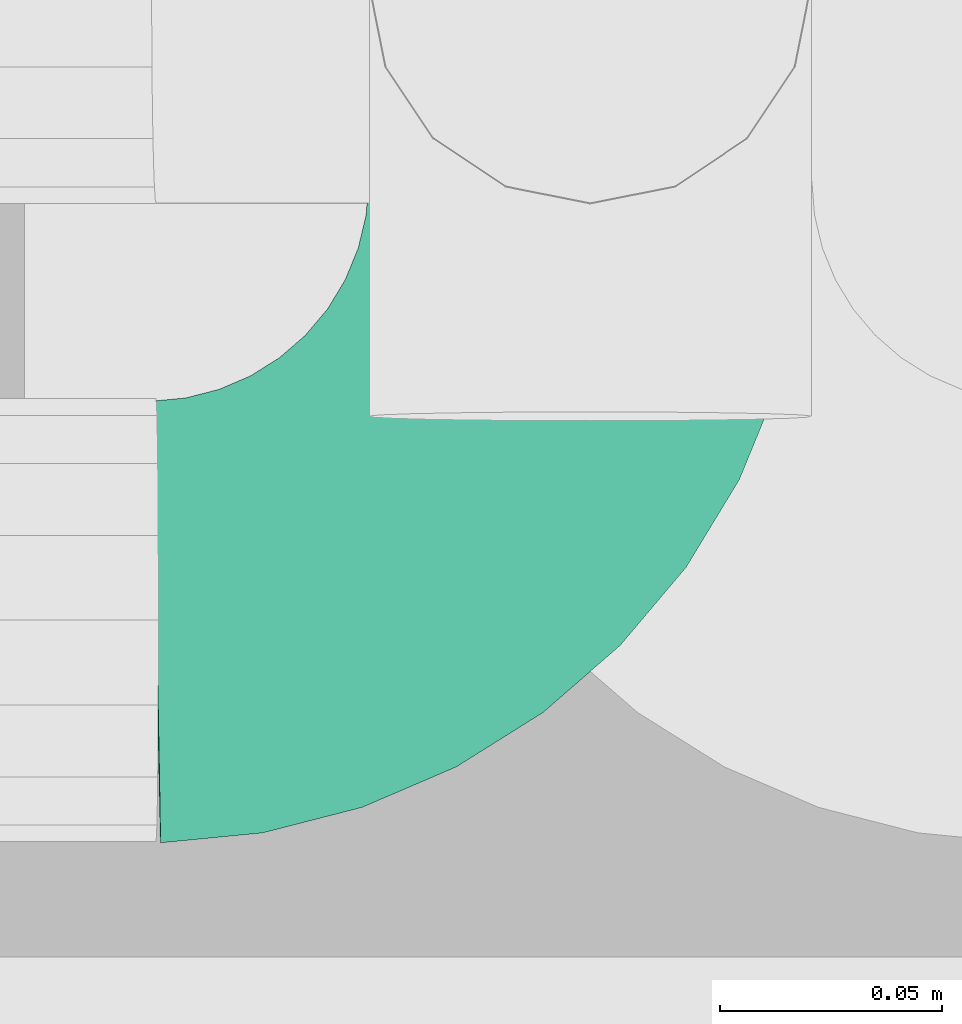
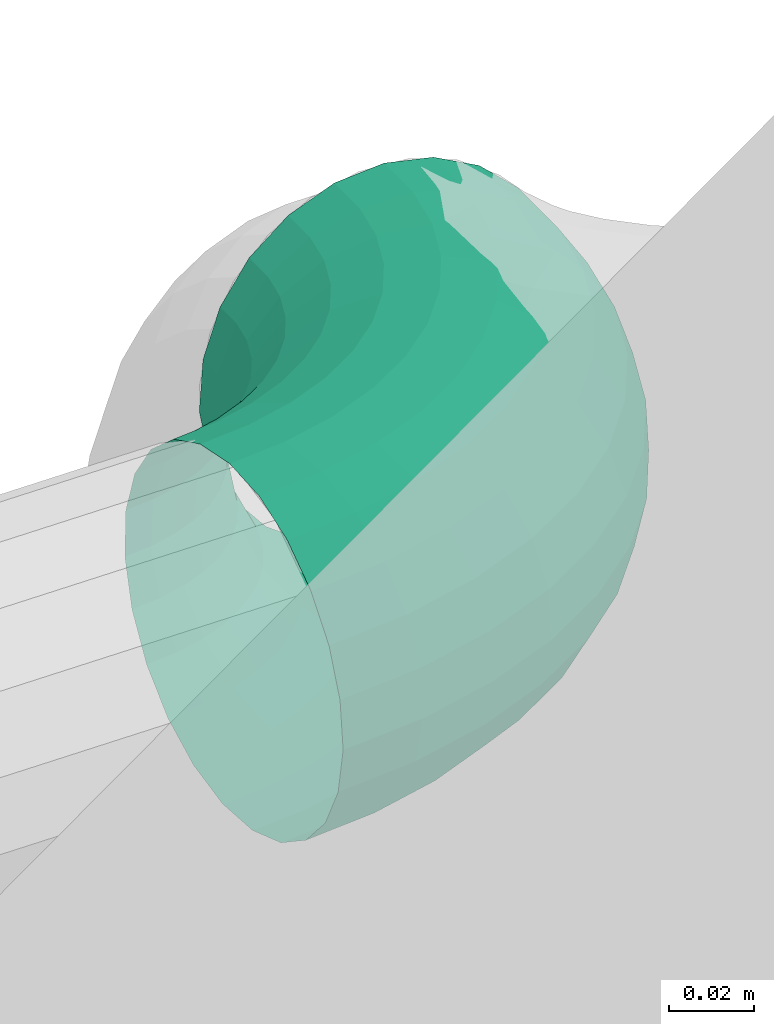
# One storey, part 81 of 106: 1 flow fitting.
"""IFC2X3 building model written with IfcOpenShell, lengths in metres."""

from ifc_helpers import new_model, entity, si_unit, converted_unit, derived_unit, money_unit, direction, frame, origin_with_axes, place, context, subcontext, project, spatial, open_shell, surface_model, material, type_object, element, save


model = new_model("IFC2X3")

# Units and contexts
model_context = context("Model", 3, precision=1e-05, world=origin_with_axes(), true_north=direction((0.0, 1.0)))
body_context = subcontext(model_context, "Body", "Model", "MODEL_VIEW", scale=1.0)
ifc_project = project(units=[si_unit("LENGTHUNIT", "METRE"), si_unit("AREAUNIT", "SQUARE_METRE"), si_unit("VOLUMEUNIT", "CUBIC_METRE"), si_unit("ABSORBEDDOSEUNIT", "GRAY"), si_unit("AMOUNTOFSUBSTANCEUNIT", "MOLE"), si_unit("DOSEEQUIVALENTUNIT", "SIEVERT"), si_unit("ELECTRICCAPACITANCEUNIT", "FARAD"), si_unit("ELECTRICCHARGEUNIT", "COULOMB"), si_unit("ELECTRICCONDUCTANCEUNIT", "SIEMENS"), si_unit("ELECTRICCURRENTUNIT", "AMPERE"), si_unit("ELECTRICRESISTANCEUNIT", "OHM"), si_unit("ELECTRICVOLTAGEUNIT", "VOLT"), si_unit("ENERGYUNIT", "JOULE"), si_unit("FORCEUNIT", "NEWTON"), si_unit("FREQUENCYUNIT", "HERTZ"), si_unit("ILLUMINANCEUNIT", "LUX"), si_unit("INDUCTANCEUNIT", "HENRY"), si_unit("LUMINOUSFLUXUNIT", "LUMEN"), si_unit("LUMINOUSINTENSITYUNIT", "CANDELA"), si_unit("MAGNETICFLUXDENSITYUNIT", "TESLA"), si_unit("MAGNETICFLUXUNIT", "WEBER"), si_unit("MASSUNIT", "GRAM"), converted_unit("PLANEANGLEUNIT", "degree", entity("IfcReal", 0.0174532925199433), si_unit("PLANEANGLEUNIT", "RADIAN"), dimensions=[0, 0, 0, 0, 0, 0, 0]), si_unit("POWERUNIT", "WATT"), si_unit("PRESSUREUNIT", "PASCAL"), si_unit("RADIOACTIVITYUNIT", "BECQUEREL"), si_unit("SOLIDANGLEUNIT", "STERADIAN"), si_unit("THERMODYNAMICTEMPERATUREUNIT", "KELVIN"), si_unit("TIMEUNIT", "SECOND"), derived_unit("ACCELERATIONUNIT", [(si_unit("LENGTHUNIT", "METRE"), 1), (si_unit("TIMEUNIT", "SECOND"), -2)]), derived_unit("ANGULARVELOCITYUNIT", [(converted_unit("PLANEANGLEUNIT", "degree", entity("IfcReal", 0.0174532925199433), si_unit("PLANEANGLEUNIT", "RADIAN"), dimensions=[0, 0, 0, 0, 0, 0, 0]), 1), (si_unit("TIMEUNIT", "SECOND"), -1)]), derived_unit("CURVATUREUNIT", [(converted_unit("PLANEANGLEUNIT", "degree", entity("IfcReal", 0.0174532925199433), si_unit("PLANEANGLEUNIT", "RADIAN"), dimensions=[0, 0, 0, 0, 0, 0, 0]), 1), (si_unit("LENGTHUNIT", "METRE"), -1)]), derived_unit("DYNAMICVISCOSITYUNIT", [(si_unit("PRESSUREUNIT", "PASCAL"), 1), (si_unit("TIMEUNIT", "SECOND"), 1)]), derived_unit("HEATFLUXDENSITYUNIT", [(si_unit("POWERUNIT", "WATT"), 1), (si_unit("LENGTHUNIT", "METRE"), -2)]), derived_unit("HEATINGVALUEUNIT", [(si_unit("ENERGYUNIT", "JOULE"), 1), (si_unit("MASSUNIT", "GRAM"), -1)]), derived_unit("INTEGERCOUNTRATEUNIT", [(si_unit("TIMEUNIT", "SECOND"), -1)]), derived_unit("IONCONCENTRATIONUNIT", [(si_unit("MASSUNIT", "GRAM"), 1), (si_unit("VOLUMEUNIT", "CUBIC_METRE"), -1)]), derived_unit("ISOTHERMALMOISTURECAPACITYUNIT", [(si_unit("VOLUMEUNIT", "CUBIC_METRE"), 1), (si_unit("MASSUNIT", "GRAM"), -1)]), derived_unit("KINEMATICVISCOSITYUNIT", [(si_unit("AREAUNIT", "SQUARE_METRE"), 1), (si_unit("TIMEUNIT", "SECOND"), -1)]), derived_unit("LINEARFORCEUNIT", [(si_unit("FORCEUNIT", "NEWTON"), 1), (si_unit("LENGTHUNIT", "METRE"), -1)]), derived_unit("LINEARMOMENTUNIT", [(si_unit("FORCEUNIT", "NEWTON"), 1), (si_unit("LENGTHUNIT", "METRE"), -1)]), derived_unit("LINEARSTIFFNESSUNIT", [(si_unit("FORCEUNIT", "NEWTON"), 1), (si_unit("LENGTHUNIT", "METRE"), -1)]), derived_unit("LINEARVELOCITYUNIT", [(si_unit("LENGTHUNIT", "METRE"), 1), (si_unit("TIMEUNIT", "SECOND"), -1)]), derived_unit("LUMINOUSINTENSITYDISTRIBUTIONUNIT", [(si_unit("LUMINOUSINTENSITYUNIT", "CANDELA"), 1), (si_unit("LUMINOUSFLUXUNIT", "LUMEN"), -1)]), derived_unit("MASSDENSITYUNIT", [(si_unit("MASSUNIT", "GRAM"), 1), (si_unit("VOLUMEUNIT", "CUBIC_METRE"), -1)]), derived_unit("MASSFLOWRATEUNIT", [(si_unit("MASSUNIT", "GRAM"), 1), (si_unit("TIMEUNIT", "SECOND"), -1)]), derived_unit("MASSPERLENGTHUNIT", [(si_unit("MASSUNIT", "GRAM"), 1), (si_unit("LENGTHUNIT", "METRE"), -1)]), derived_unit("MODULUSOFELASTICITYUNIT", [(si_unit("FORCEUNIT", "NEWTON"), 1), (si_unit("AREAUNIT", "SQUARE_METRE"), -1)]), derived_unit("MODULUSOFLINEARSUBGRADEREACTIONUNIT", [(si_unit("FORCEUNIT", "NEWTON"), 1), (si_unit("LENGTHUNIT", "METRE"), -2)]), derived_unit("MODULUSOFROTATIONALSUBGRADEREACTIONUNIT", [(si_unit("FORCEUNIT", "NEWTON"), 1), (si_unit("LENGTHUNIT", "METRE"), 1)]), derived_unit("MODULUSOFSUBGRADEREACTIONUNIT", [(si_unit("FORCEUNIT", "NEWTON"), 1), (si_unit("VOLUMEUNIT", "CUBIC_METRE"), -1)]), derived_unit("MOISTUREDIFFUSIVITYUNIT", [(si_unit("VOLUMEUNIT", "CUBIC_METRE"), 1), (si_unit("TIMEUNIT", "SECOND"), -1)]), derived_unit("MOLECULARWEIGHTUNIT", [(si_unit("MASSUNIT", "GRAM"), 1), (si_unit("AMOUNTOFSUBSTANCEUNIT", "MOLE"), -1)]), derived_unit("PLANARFORCEUNIT", [(si_unit("FORCEUNIT", "NEWTON"), 1), (si_unit("LENGTHUNIT", "METRE"), -2)]), derived_unit("ROTATIONALFREQUENCYUNIT", [(si_unit("TIMEUNIT", "SECOND"), -1)]), derived_unit("ROTATIONALMASSUNIT", [(si_unit("MASSUNIT", "GRAM"), 1), (si_unit("LENGTHUNIT", "METRE"), 2)]), derived_unit("ROTATIONALSTIFFNESSUNIT", [(si_unit("FORCEUNIT", "NEWTON"), 1), (si_unit("LENGTHUNIT", "METRE"), 1), (converted_unit("PLANEANGLEUNIT", "degree", entity("IfcReal", 0.0174532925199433), si_unit("PLANEANGLEUNIT", "RADIAN"), dimensions=[0, 0, 0, 0, 0, 0, 0]), -1)]), derived_unit("SECTIONAREAINTEGRALUNIT", [(si_unit("LENGTHUNIT", "METRE"), 5)]), derived_unit("SECTIONMODULUSUNIT", [(si_unit("LENGTHUNIT", "METRE"), 3)]), derived_unit("SHEARMODULUSUNIT", [(si_unit("FORCEUNIT", "NEWTON"), 1), (si_unit("AREAUNIT", "SQUARE_METRE"), -1)]), derived_unit("SOUNDPOWERUNIT", [(si_unit("ENERGYUNIT", "JOULE"), 1), (si_unit("TIMEUNIT", "SECOND"), -1)]), derived_unit("SPECIFICHEATCAPACITYUNIT", [(si_unit("FORCEUNIT", "NEWTON"), 1), (si_unit("MASSUNIT", "GRAM"), -1), (si_unit("THERMODYNAMICTEMPERATUREUNIT", "KELVIN"), -1)]), derived_unit("TEMPERATUREGRADIENTUNIT", [(si_unit("THERMODYNAMICTEMPERATUREUNIT", "KELVIN"), 1), (si_unit("LENGTHUNIT", "METRE"), -1)]), derived_unit("THERMALADMITTANCEUNIT", [(si_unit("POWERUNIT", "WATT"), 1), (si_unit("AREAUNIT", "SQUARE_METRE"), -1), (si_unit("THERMODYNAMICTEMPERATUREUNIT", "KELVIN"), -1)]), derived_unit("THERMALCONDUCTANCEUNIT", [(si_unit("POWERUNIT", "WATT"), 1), (si_unit("LENGTHUNIT", "METRE"), -1), (si_unit("THERMODYNAMICTEMPERATUREUNIT", "KELVIN"), -1)]), derived_unit("THERMALEXPANSIONCOEFFICIENTUNIT", [(si_unit("THERMODYNAMICTEMPERATUREUNIT", "KELVIN"), -1)]), derived_unit("THERMALRESISTANCEUNIT", [(si_unit("AREAUNIT", "SQUARE_METRE"), 1), (si_unit("POWERUNIT", "WATT"), -1)]), derived_unit("THERMALTRANSMITTANCEUNIT", [(si_unit("POWERUNIT", "WATT"), 1), (si_unit("AREAUNIT", "SQUARE_METRE"), -1), (si_unit("THERMODYNAMICTEMPERATUREUNIT", "KELVIN"), -1)]), derived_unit("TORQUEUNIT", [(si_unit("FORCEUNIT", "NEWTON"), 1), (si_unit("LENGTHUNIT", "METRE"), 1)]), derived_unit("VAPORPERMEABILITYUNIT", [(si_unit("MASSUNIT", "GRAM"), 1), (si_unit("TIMEUNIT", "SECOND"), -1)]), derived_unit("VOLUMETRICFLOWRATEUNIT", [(si_unit("VOLUMEUNIT", "CUBIC_METRE"), 1), (si_unit("TIMEUNIT", "SECOND"), -1)]), derived_unit("WARPINGCONSTANTUNIT", [(si_unit("LENGTHUNIT", "METRE"), 6)]), derived_unit("WARPINGMOMENTUNIT", [(si_unit("FORCEUNIT", "NEWTON"), 1), (si_unit("LENGTHUNIT", "METRE"), 2)]), money_unit("GBP")], contexts=[model_context])

# Site, building, storey
site_placement = place(None, origin_with_axes())
site = spatial("IfcSite", under=ifc_project, at=site_placement, Name="Site", CompositionType="ELEMENT")
building_placement = place(site_placement, origin_with_axes())
building = spatial("IfcBuilding", under=site, at=building_placement, Name="Building01", CompositionType="ELEMENT")
storey_placement = place(building_placement, origin_with_axes())
storey = spatial("IfcBuildingStorey", under=building, at=storey_placement, Name="GF", CompositionType="ELEMENT", Elevation=0.0)

# Flow fitting
ifc_material = material(Name="M_BSUK_ColdWater")
pipe_fitting_type = type_object("IfcPipeFittingType", Name="M-BmpElbow-DefaultElbow", PredefinedType="BEND")
flow_fitting_placement = place(storey_placement, frame((0.408496, 14.905103, 15.475211), z_axis=(1.0, 0.0, 0.0), x_axis=(0.0, -0.99414865, 0.10802068)))
element("IfcFlowFitting", 1, at=flow_fitting_placement, inside=storey, type_object=pipe_fitting_type, material=ifc_material, Name="M-BmpElbow-DefaultElbow", ObjectType="M-BmpElbow-DefaultElbow", context=body_context, shape_type="SurfaceModel", body=[
    surface_model("IfcShellBasedSurfaceModel", [(0.008009, -0.01349, -0.048768), (0.0, -0.01349, -0.048146), (0.0, 0.0, -0.05), (0.007723, 0.0, -0.0506), (0.015826, -0.01349, -0.05062), (0.015261, 0.0, -0.052386), (0.023264, -0.01349, -0.053657), (0.022432, 0.0, -0.055314), (0.030143, -0.01349, -0.057807), (0.029065, 0.0, -0.059315), (0.036298, -0.01349, -0.062969), (0.035, 0.0, -0.064293), (0.041582, -0.01349, -0.06902), (0.040095, 0.0, -0.070127), (0.045868, -0.01349, -0.075814), (0.044228, 0.0, -0.076679), (0.049054, -0.01349, -0.083189), (0.0473, 0.0, -0.08379), (0.051061, -0.01349, -0.090968), (0.049236, 0.0, -0.091291), (0.051844, -0.01349, -0.098963), (0.04999, 0.0, -0.099), (0.008847, -0.025979, -0.043408), (0.0, -0.025979, -0.042721), (0.017482, -0.025979, -0.045454), (0.025697, -0.025979, -0.048809), (0.033296, -0.025979, -0.053392), (0.040095, -0.025979, -0.059095), (0.045932, -0.025979, -0.065779), (0.050667, -0.025979, -0.073284), (0.054185, -0.025979, -0.081431), (0.056403, -0.025979, -0.090023), (0.057268, -0.025979, -0.098855), (0.010175, -0.036542, -0.034918), (0.0, -0.036542, -0.034128), (0.020105, -0.036542, -0.037271), (0.029553, -0.036542, -0.041129), (0.038291, -0.036542, -0.0464), (0.046111, -0.036542, -0.052958), (0.052823, -0.036542, -0.060645), (0.058268, -0.036542, -0.069276), (0.062315, -0.036542, -0.078645), (0.064865, -0.036542, -0.088526), (0.065859, -0.036542, -0.098683), (0.011893, -0.044394, -0.023927), (0.0, -0.044394, -0.023003), (0.0235, -0.044394, -0.026677), (0.034544, -0.044394, -0.031187), (0.044758, -0.044394, -0.037348), (0.053898, -0.044394, -0.045013), (0.061744, -0.044394, -0.053998), (0.068109, -0.044394, -0.064087), (0.072838, -0.044394, -0.075038), (0.07582, -0.044394, -0.086588), (0.076981, -0.044394, -0.09846), (0.013875, -0.048954, -0.011251), (0.0, -0.048954, -0.010173), (0.027416, -0.048954, -0.014459), (0.0403, -0.048954, -0.01972), (0.052216, -0.048954, -0.026908), (0.062879, -0.048954, -0.035851), (0.072033, -0.048954, -0.046333), (0.079458, -0.048954, -0.058103), (0.084976, -0.048954, -0.070879), (0.088454, -0.048954, -0.084353), (0.089809, -0.048954, -0.098204), (0.015973, -0.049883, 0.002171), (0.0, -0.049883, 0.003412), (0.031562, -0.049883, -0.001522), (0.046394, -0.049883, -0.007579), (0.060113, -0.049883, -0.015854), (0.072389, -0.049883, -0.026149), (0.082927, -0.049883, -0.038216), (0.091475, -0.049883, -0.051767), (0.097827, -0.049883, -0.066475), (0.101831, -0.049883, -0.081987), (0.103391, -0.049883, -0.097932), (0.018032, -0.047113, 0.015343), (0.0, -0.047113, 0.016744), (0.035632, -0.047113, 0.011174), (0.052376, -0.047113, 0.004336), (0.067863, -0.047113, -0.005006), (0.081721, -0.047113, -0.016628), (0.093618, -0.047113, -0.030251), (0.103268, -0.047113, -0.045548), (0.110439, -0.047113, -0.062153), (0.114959, -0.047113, -0.079665), (0.116721, -0.047113, -0.097665), (0.0199, -0.040848, 0.027288), (0.0, -0.040848, 0.028834), (0.039322, -0.040848, 0.022687), (0.0578, -0.040848, 0.015141), (0.074891, -0.040848, 0.004831), (0.090184, -0.040848, -0.007994), (0.103313, -0.040848, -0.023028), (0.113962, -0.040848, -0.039909), (0.121876, -0.040848, -0.058233), (0.126865, -0.040848, -0.077559), (0.128808, -0.040848, -0.097424), (0.021437, -0.031554, 0.03712), (0.0, -0.031554, 0.038786), (0.042359, -0.031554, 0.032163), (0.062264, -0.031554, 0.024035), (0.080675, -0.031554, 0.012929), (0.09715, -0.031554, -0.000887), (0.111293, -0.031554, -0.017083), (0.122765, -0.031554, -0.035268), (0.13129, -0.031554, -0.055007), (0.136664, -0.031554, -0.075826), (0.138758, -0.031554, -0.097225), (0.022529, -0.01992, 0.04411), (0.0, -0.01992, 0.045861), (0.044518, -0.01992, 0.038901), (0.065438, -0.01992, 0.030358), (0.084788, -0.01992, 0.018686), (0.102103, -0.01992, 0.004165), (0.116966, -0.01992, -0.012856), (0.129023, -0.01992, -0.031968), (0.137983, -0.01992, -0.052713), (0.143631, -0.01992, -0.074593), (0.145831, -0.01992, -0.097083), (0.023097, -0.006808, 0.04774), (0.0, -0.006808, 0.049534), (0.045639, -0.006808, 0.042399), (0.067087, -0.006808, 0.033641), (0.086924, -0.006808, 0.021675), (0.104674, -0.006808, 0.006789), (0.119912, -0.006808, -0.010661), (0.132273, -0.006808, -0.030254), (0.141458, -0.006808, -0.051522), (0.147248, -0.006808, -0.073953), (0.149504, -0.006808, -0.09701), (0.023097, 0.006808, 0.04774), (0.0, 0.006808, 0.049534), (0.045639, 0.006808, 0.042399), (0.067087, 0.006808, 0.033641), (0.086924, 0.006808, 0.021675), (0.104674, 0.006808, 0.006789), (0.119912, 0.006808, -0.010661), (0.132273, 0.006808, -0.030254), (0.141458, 0.006808, -0.051522), (0.147248, 0.006808, -0.073953), (0.149504, 0.006808, -0.09701), (0.022529, 0.01992, 0.04411), (0.0, 0.01992, 0.045861), (0.044518, 0.01992, 0.038901), (0.065438, 0.01992, 0.030358), (0.084788, 0.01992, 0.018686), (0.102103, 0.01992, 0.004165), (0.116966, 0.01992, -0.012856), (0.129023, 0.01992, -0.031968), (0.137983, 0.01992, -0.052713), (0.143631, 0.01992, -0.074593), (0.145831, 0.01992, -0.097083), (0.021437, 0.031554, 0.03712), (0.0, 0.031554, 0.038786), (0.042359, 0.031554, 0.032163), (0.062264, 0.031554, 0.024035), (0.080675, 0.031554, 0.012929), (0.09715, 0.031554, -0.000887), (0.111293, 0.031554, -0.017083), (0.122765, 0.031554, -0.035268), (0.13129, 0.031554, -0.055007), (0.136664, 0.031554, -0.075826), (0.138758, 0.031554, -0.097225), (0.0199, 0.040848, 0.027288), (0.0, 0.040848, 0.028834), (0.039322, 0.040848, 0.022687), (0.0578, 0.040848, 0.015141), (0.074891, 0.040848, 0.004831), (0.090184, 0.040848, -0.007994), (0.103313, 0.040848, -0.023028), (0.113962, 0.040848, -0.039909), (0.121876, 0.040848, -0.058233), (0.126865, 0.040848, -0.077559), (0.128808, 0.040848, -0.097424), (0.018032, 0.047113, 0.015343), (0.0, 0.047113, 0.016744), (0.035632, 0.047113, 0.011174), (0.052376, 0.047113, 0.004336), (0.067863, 0.047113, -0.005006), (0.081721, 0.047113, -0.016628), (0.093618, 0.047113, -0.030251), (0.103268, 0.047113, -0.045548), (0.110439, 0.047113, -0.062153), (0.114959, 0.047113, -0.079665), (0.116721, 0.047113, -0.097665), (0.015973, 0.049883, 0.002171), (0.0, 0.049883, 0.003412), (0.031562, 0.049883, -0.001522), (0.046394, 0.049883, -0.007579), (0.060113, 0.049883, -0.015854), (0.072389, 0.049883, -0.026149), (0.082927, 0.049883, -0.038216), (0.091475, 0.049883, -0.051767), (0.097827, 0.049883, -0.066475), (0.101831, 0.049883, -0.081987), (0.103391, 0.049883, -0.097932), (0.013875, 0.048954, -0.011251), (0.0, 0.048954, -0.010173), (0.027416, 0.048954, -0.014459), (0.0403, 0.048954, -0.01972), (0.052216, 0.048954, -0.026908), (0.062879, 0.048954, -0.035851), (0.072033, 0.048954, -0.046333), (0.079458, 0.048954, -0.058103), (0.084976, 0.048954, -0.070879), (0.088454, 0.048954, -0.084353), (0.089809, 0.048954, -0.098204), (0.011893, 0.044394, -0.023927), (0.0, 0.044394, -0.023003), (0.0235, 0.044394, -0.026677), (0.034544, 0.044394, -0.031187), (0.044758, 0.044394, -0.037348), (0.053898, 0.044394, -0.045013), (0.061744, 0.044394, -0.053998), (0.068109, 0.044394, -0.064087), (0.072838, 0.044394, -0.075038), (0.07582, 0.044394, -0.086588), (0.076981, 0.044394, -0.09846), (0.010175, 0.036542, -0.034918), (0.0, 0.036542, -0.034128), (0.020105, 0.036542, -0.037271), (0.029553, 0.036542, -0.041129), (0.038291, 0.036542, -0.0464), (0.046111, 0.036542, -0.052958), (0.052823, 0.036542, -0.060645), (0.058268, 0.036542, -0.069276), (0.062315, 0.036542, -0.078645), (0.064865, 0.036542, -0.088526), (0.065859, 0.036542, -0.098683), (0.008847, 0.025979, -0.043408), (0.0, 0.025979, -0.042721), (0.017482, 0.025979, -0.045454), (0.025697, 0.025979, -0.048809), (0.033296, 0.025979, -0.053392), (0.040095, 0.025979, -0.059095), (0.045932, 0.025979, -0.065779), (0.050667, 0.025979, -0.073284), (0.054185, 0.025979, -0.081431), (0.056403, 0.025979, -0.090023), (0.057268, 0.025979, -0.098855), (0.008009, 0.01349, -0.048768), (0.0, 0.01349, -0.048146), (0.015826, 0.01349, -0.05062), (0.023264, 0.01349, -0.053657), (0.030143, 0.01349, -0.057807), (0.036298, 0.01349, -0.062969), (0.041582, 0.01349, -0.06902), (0.045868, 0.01349, -0.075814), (0.049054, 0.01349, -0.083189), (0.051061, 0.01349, -0.090968), (0.051844, 0.01349, -0.098963)], [open_shell([[[0, 1, 2, 3]], [[4, 0, 3, 5]], [[6, 4, 5, 7]], [[8, 6, 7, 9]], [[10, 8, 9, 11]], [[12, 10, 11, 13]], [[14, 12, 13, 15]], [[16, 14, 15, 17]], [[18, 16, 17, 19]], [[20, 18, 19, 21]], [[22, 23, 1, 0]], [[24, 22, 0, 4]], [[25, 24, 4, 6]], [[26, 25, 6, 8]], [[27, 26, 8, 10]], [[28, 27, 10, 12]], [[29, 28, 12, 14]], [[30, 29, 14, 16]], [[31, 30, 16, 18]], [[32, 31, 18, 20]], [[33, 34, 23, 22]], [[35, 33, 22, 24]], [[36, 35, 24, 25]], [[37, 36, 25, 26]], [[38, 37, 26, 27]], [[39, 38, 27, 28]], [[40, 39, 28, 29]], [[41, 40, 29, 30]], [[42, 41, 30, 31]], [[43, 42, 31, 32]], [[44, 45, 34, 33]], [[46, 44, 33, 35]], [[47, 46, 35, 36]], [[48, 47, 36, 37]], [[49, 48, 37, 38]], [[50, 49, 38, 39]], [[51, 50, 39, 40]], [[52, 51, 40, 41]], [[53, 52, 41, 42]], [[54, 53, 42, 43]], [[55, 56, 45, 44]], [[57, 55, 44, 46]], [[58, 57, 46, 47]], [[59, 58, 47, 48]], [[60, 59, 48, 49]], [[61, 60, 49, 50]], [[62, 61, 50, 51]], [[63, 62, 51, 52]], [[64, 63, 52, 53]], [[65, 64, 53, 54]], [[66, 67, 56, 55]], [[68, 66, 55, 57]], [[69, 68, 57, 58]], [[70, 69, 58, 59]], [[71, 70, 59, 60]], [[72, 71, 60, 61]], [[73, 72, 61, 62]], [[74, 73, 62, 63]], [[75, 74, 63, 64]], [[76, 75, 64, 65]], [[77, 78, 67, 66]], [[79, 77, 66, 68]], [[80, 79, 68, 69]], [[81, 80, 69, 70]], [[82, 81, 70, 71]], [[83, 82, 71, 72]], [[84, 83, 72, 73]], [[85, 84, 73, 74]], [[86, 85, 74, 75]], [[87, 86, 75, 76]], [[88, 89, 78, 77]], [[90, 88, 77, 79]], [[91, 90, 79, 80]], [[92, 91, 80, 81]], [[93, 92, 81, 82]], [[94, 93, 82, 83]], [[95, 94, 83, 84]], [[96, 95, 84, 85]], [[97, 96, 85, 86]], [[98, 97, 86, 87]], [[99, 100, 89, 88]], [[101, 99, 88, 90]], [[102, 101, 90, 91]], [[103, 102, 91, 92]], [[104, 103, 92, 93]], [[105, 104, 93, 94]], [[106, 105, 94, 95]], [[107, 106, 95, 96]], [[108, 107, 96, 97]], [[109, 108, 97, 98]], [[110, 111, 100, 99]], [[112, 110, 99, 101]], [[113, 112, 101, 102]], [[114, 113, 102, 103]], [[115, 114, 103, 104]], [[116, 115, 104, 105]], [[117, 116, 105, 106]], [[118, 117, 106, 107]], [[119, 118, 107, 108]], [[120, 119, 108, 109]], [[121, 122, 111, 110]], [[123, 121, 110, 112]], [[124, 123, 112, 113]], [[125, 124, 113, 114]], [[126, 125, 114, 115]], [[127, 126, 115, 116]], [[128, 127, 116, 117]], [[129, 128, 117, 118]], [[130, 129, 118, 119]], [[131, 130, 119, 120]], [[132, 133, 122, 121]], [[134, 132, 121, 123]], [[135, 134, 123, 124]], [[136, 135, 124, 125]], [[137, 136, 125, 126]], [[138, 137, 126, 127]], [[139, 138, 127, 128]], [[140, 139, 128, 129]], [[141, 140, 129, 130]], [[142, 141, 130, 131]], [[143, 144, 133, 132]], [[145, 143, 132, 134]], [[146, 145, 134, 135]], [[147, 146, 135, 136]], [[148, 147, 136, 137]], [[149, 148, 137, 138]], [[150, 149, 138, 139]], [[151, 150, 139, 140]], [[152, 151, 140, 141]], [[153, 152, 141, 142]], [[154, 155, 144, 143]], [[156, 154, 143, 145]], [[157, 156, 145, 146]], [[158, 157, 146, 147]], [[159, 158, 147, 148]], [[160, 159, 148, 149]], [[161, 160, 149, 150]], [[162, 161, 150, 151]], [[163, 162, 151, 152]], [[164, 163, 152, 153]], [[165, 166, 155, 154]], [[167, 165, 154, 156]], [[168, 167, 156, 157]], [[169, 168, 157, 158]], [[170, 169, 158, 159]], [[171, 170, 159, 160]], [[172, 171, 160, 161]], [[173, 172, 161, 162]], [[174, 173, 162, 163]], [[175, 174, 163, 164]], [[176, 177, 166, 165]], [[178, 176, 165, 167]], [[179, 178, 167, 168]], [[180, 179, 168, 169]], [[181, 180, 169, 170]], [[182, 181, 170, 171]], [[183, 182, 171, 172]], [[184, 183, 172, 173]], [[185, 184, 173, 174]], [[186, 185, 174, 175]], [[187, 188, 177, 176]], [[189, 187, 176, 178]], [[190, 189, 178, 179]], [[191, 190, 179, 180]], [[192, 191, 180, 181]], [[193, 192, 181, 182]], [[194, 193, 182, 183]], [[195, 194, 183, 184]], [[196, 195, 184, 185]], [[197, 196, 185, 186]], [[198, 199, 188, 187]], [[200, 198, 187, 189]], [[201, 200, 189, 190]], [[202, 201, 190, 191]], [[203, 202, 191, 192]], [[204, 203, 192, 193]], [[205, 204, 193, 194]], [[206, 205, 194, 195]], [[207, 206, 195, 196]], [[208, 207, 196, 197]], [[209, 210, 199, 198]], [[211, 209, 198, 200]], [[212, 211, 200, 201]], [[213, 212, 201, 202]], [[214, 213, 202, 203]], [[215, 214, 203, 204]], [[216, 215, 204, 205]], [[217, 216, 205, 206]], [[218, 217, 206, 207]], [[219, 218, 207, 208]], [[220, 221, 210, 209]], [[222, 220, 209, 211]], [[223, 222, 211, 212]], [[224, 223, 212, 213]], [[225, 224, 213, 214]], [[226, 225, 214, 215]], [[227, 226, 215, 216]], [[228, 227, 216, 217]], [[229, 228, 217, 218]], [[230, 229, 218, 219]], [[231, 232, 221, 220]], [[233, 231, 220, 222]], [[234, 233, 222, 223]], [[235, 234, 223, 224]], [[236, 235, 224, 225]], [[237, 236, 225, 226]], [[238, 237, 226, 227]], [[239, 238, 227, 228]], [[240, 239, 228, 229]], [[241, 240, 229, 230]], [[242, 243, 232, 231]], [[244, 242, 231, 233]], [[245, 244, 233, 234]], [[246, 245, 234, 235]], [[247, 246, 235, 236]], [[248, 247, 236, 237]], [[249, 248, 237, 238]], [[250, 249, 238, 239]], [[251, 250, 239, 240]], [[252, 251, 240, 241]], [[3, 2, 243, 242]], [[5, 3, 242, 244]], [[7, 5, 244, 245]], [[9, 7, 245, 246]], [[11, 9, 246, 247]], [[13, 11, 247, 248]], [[15, 13, 248, 249]], [[17, 15, 249, 250]], [[19, 17, 250, 251]], [[21, 19, 251, 252]]])]),
])

save(model, "model.ifc")
